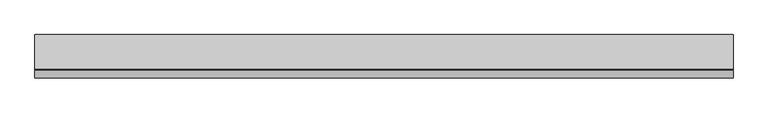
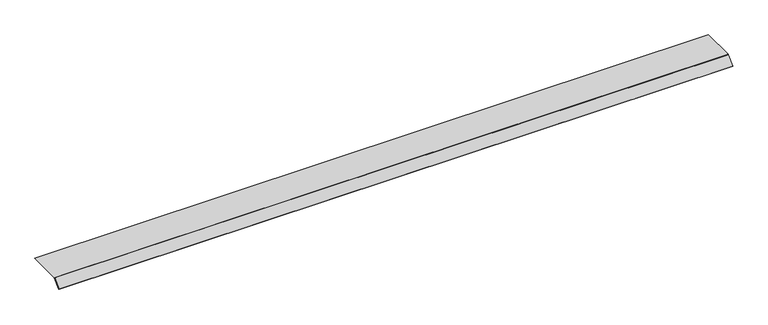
"""IFC4 building model written with IfcOpenShell, lengths in millimetres: proxy geometry, Electrical_Installation_Hager_Blank-Cover-400mm-Double-Sided-Extended-100-Height-70mm : Electrical_Installation_Hager_Blank-Cover-400mm-Double-Sided-Extended-100-Height-70mm."""

from ifc_helpers import new_model, si_unit, point, frame, frame_2d, origin, place, context, project, spatial, polyline, circle_curve, trimmed, segment, composite_curve, outline, extrude, source, transform, mapped, element, save


def electrical_fixtures_914368cf(model_context):
    return source(origin(), model_context, "Body", "SweptSolid", [
        extrude(outline(composite_curve([segment(polyline([(201.39204, 40.5), (201.39204, 37.5), (-99.8229541, 37.5)]), True, "CONTINUOUS"), segment(trimmed(circle_curve(frame_2d((-99.8229541, 36.0725733)), 1.4274267), [point((-99.8229541, 37.5))], [point((-100.8322972, 37.0819164))], True, "CARTESIAN"), True, "CONTINUOUS"), segment(polyline([(-100.8322972, 37.0819164), (-168.6627596, -30.7485461), (-170.78408, -28.6272257), (-102.8206472, 39.336207)]), True, "CONTINUOUS"), segment(trimmed(circle_curve(frame_2d((-100.0110025, 36.5265623)), 3.9734377), [point((-102.8206472, 39.336207))], [point((-100.0110025, 40.5))], False, "CARTESIAN"), True, "CONTINUOUS"), segment(polyline([(-100.0110025, 40.5), (201.39204, 40.5)]), True, "CONTINUOUS")], self_intersect=False)), frame((0.0, 0.0, 0.0), z_axis=(1.0, 0.0, 0.0), x_axis=(0.0, 1.0, 0.0)), (0.0, 0.0, 1.0), 6011.6956759),
    ])


if __name__ == "__main__":
    model = new_model("IFC4")
    model_context = context("Model", 3, world=origin())
    ifc_project = project(units=[si_unit("LENGTHUNIT", "METRE", prefix="MILLI")], contexts=[model_context])
    site = spatial("IfcSite", under=ifc_project)
    building = spatial("IfcBuilding", under=site)
    placement = place(None, origin())
    electrical_fixtures_shape = electrical_fixtures_914368cf(model_context)
    element("IfcBuildingElementProxy", 1, Name="Electrical_Installation_Hager_Blank-Cover-400mm-Double-Sided-Extended-100-Height-70mm : Electrical_Installation_Hager_Blank-Cover-400mm-Double-Sided-Extended-100-Height-70mm", ObjectType="Electrical_Installation_Hager_Blank-Cover-400mm-Double-Sided-Extended-100-Height-70mm : Electrical_Installation_Hager_Blank-Cover-400mm-Double-Sided-Extended-100-Height-70mm", at=placement, inside=building, context=model_context, shape_type="MappedRepresentation", body=[
        mapped(electrical_fixtures_shape, transform((0.0, 0.0, 0.0), x_axis=(1.0, 0.0, 0.0), y_axis=(0.0, 1.0, 0.0), z_axis=(0.0, 0.0, 1.0))),
    ])
    save(model, "model.ifc")
